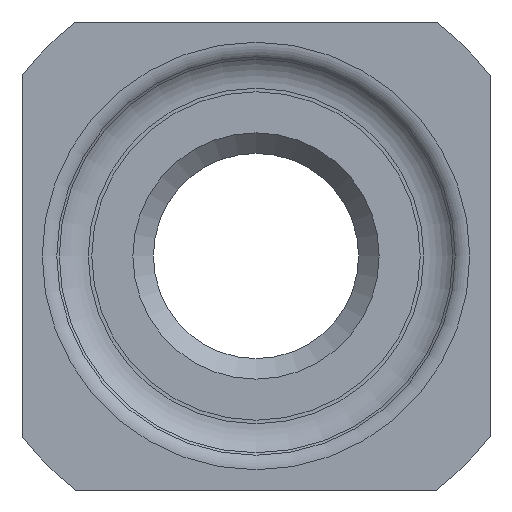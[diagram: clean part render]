
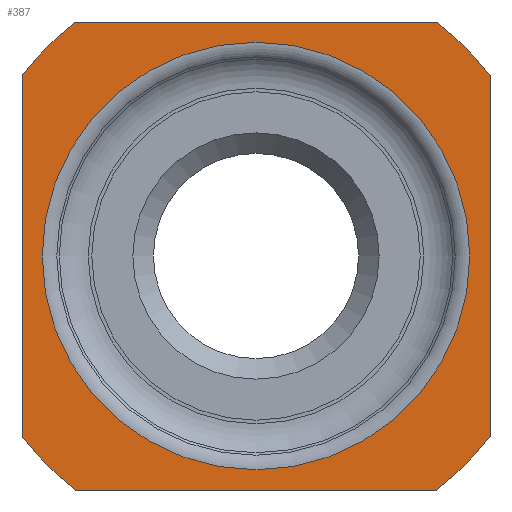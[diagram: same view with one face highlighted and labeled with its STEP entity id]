
A CAD part, front view. The second image highlights one B-rep face of the part: STEP entity #387.
In plain terms, the highlighted planar face has unit normal (0, -1, 0).
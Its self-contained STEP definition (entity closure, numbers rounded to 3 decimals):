
#29=FACE_BOUND('',#113,.T.);
#33=PLANE('',#440);
#42=LINE('',#642,#60);
#43=LINE('',#646,#61);
#44=LINE('',#650,#62);
#45=LINE('',#653,#63);
#60=VECTOR('',#511,10.);
#61=VECTOR('',#514,10.);
#62=VECTOR('',#517,10.);
#63=VECTOR('',#520,10.);
#87=FACE_OUTER_BOUND('',#112,.T.);
#112=EDGE_LOOP('',(#275,#276,#277,#278,#279,#280,#281,#282));
#113=EDGE_LOOP('',(#283));
#139=CIRCLE('',#434,5.207);
#144=CIRCLE('',#441,7.2);
#145=CIRCLE('',#442,7.2);
#146=CIRCLE('',#443,7.2);
#147=CIRCLE('',#444,7.2);
#171=VERTEX_POINT('',#626);
#175=VERTEX_POINT('',#638);
#176=VERTEX_POINT('',#639);
#177=VERTEX_POINT('',#641);
#178=VERTEX_POINT('',#643);
#179=VERTEX_POINT('',#645);
#180=VERTEX_POINT('',#647);
#181=VERTEX_POINT('',#649);
#182=VERTEX_POINT('',#651);
#208=EDGE_CURVE('',#171,#171,#139,.T.);
#214=EDGE_CURVE('',#175,#176,#144,.T.);
#215=EDGE_CURVE('',#176,#177,#42,.T.);
#216=EDGE_CURVE('',#177,#178,#145,.T.);
#217=EDGE_CURVE('',#178,#179,#43,.T.);
#218=EDGE_CURVE('',#179,#180,#146,.T.);
#219=EDGE_CURVE('',#180,#181,#44,.T.);
#220=EDGE_CURVE('',#181,#182,#147,.T.);
#221=EDGE_CURVE('',#182,#175,#45,.T.);
#275=ORIENTED_EDGE('',*,*,#214,.T.);
#276=ORIENTED_EDGE('',*,*,#215,.T.);
#277=ORIENTED_EDGE('',*,*,#216,.T.);
#278=ORIENTED_EDGE('',*,*,#217,.T.);
#279=ORIENTED_EDGE('',*,*,#218,.T.);
#280=ORIENTED_EDGE('',*,*,#219,.T.);
#281=ORIENTED_EDGE('',*,*,#220,.T.);
#282=ORIENTED_EDGE('',*,*,#221,.T.);
#283=ORIENTED_EDGE('',*,*,#208,.F.);
#387=ADVANCED_FACE('',(#87,#29),#33,.T.);
#434=AXIS2_PLACEMENT_3D('',#627,#494,#495);
#440=AXIS2_PLACEMENT_3D('',#637,#507,#508);
#441=AXIS2_PLACEMENT_3D('',#640,#509,#510);
#442=AXIS2_PLACEMENT_3D('',#644,#512,#513);
#443=AXIS2_PLACEMENT_3D('',#648,#515,#516);
#444=AXIS2_PLACEMENT_3D('',#652,#518,#519);
#494=DIRECTION('center_axis',(0.,-1.,0.));
#495=DIRECTION('ref_axis',(0.,0.,-1.));
#507=DIRECTION('center_axis',(0.,-1.,0.));
#508=DIRECTION('ref_axis',(0.,0.,-1.));
#509=DIRECTION('center_axis',(0.,-1.,0.));
#510=DIRECTION('ref_axis',(0.,0.,1.));
#511=DIRECTION('',(0.,0.,-1.));
#512=DIRECTION('center_axis',(0.,-1.,0.));
#513=DIRECTION('ref_axis',(0.,0.,1.));
#514=DIRECTION('',(1.,0.,0.));
#515=DIRECTION('center_axis',(0.,-1.,0.));
#516=DIRECTION('ref_axis',(0.,0.,1.));
#517=DIRECTION('',(0.,0.,1.));
#518=DIRECTION('center_axis',(0.,-1.,0.));
#519=DIRECTION('ref_axis',(0.,0.,1.));
#520=DIRECTION('',(-1.,0.,0.));
#626=CARTESIAN_POINT('',(0.,-4.5,-5.207));
#627=CARTESIAN_POINT('Origin',(0.,-4.5,0.));
#637=CARTESIAN_POINT('Origin',(0.,-4.5,0.));
#638=CARTESIAN_POINT('',(-4.399,-4.5,5.7));
#639=CARTESIAN_POINT('',(-5.7,-4.5,4.399));
#640=CARTESIAN_POINT('Origin',(0.,-4.5,0.));
#641=CARTESIAN_POINT('',(-5.7,-4.5,-4.399));
#642=CARTESIAN_POINT('',(-5.7,-4.5,-5.7));
#643=CARTESIAN_POINT('',(-4.399,-4.5,-5.7));
#644=CARTESIAN_POINT('Origin',(0.,-4.5,0.));
#645=CARTESIAN_POINT('',(4.399,-4.5,-5.7));
#646=CARTESIAN_POINT('',(5.7,-4.5,-5.7));
#647=CARTESIAN_POINT('',(5.7,-4.5,-4.399));
#648=CARTESIAN_POINT('Origin',(0.,-4.5,0.));
#649=CARTESIAN_POINT('',(5.7,-4.5,4.399));
#650=CARTESIAN_POINT('',(5.7,-4.5,5.7));
#651=CARTESIAN_POINT('',(4.399,-4.5,5.7));
#652=CARTESIAN_POINT('Origin',(0.,-4.5,0.));
#653=CARTESIAN_POINT('',(-5.7,-4.5,5.7));
